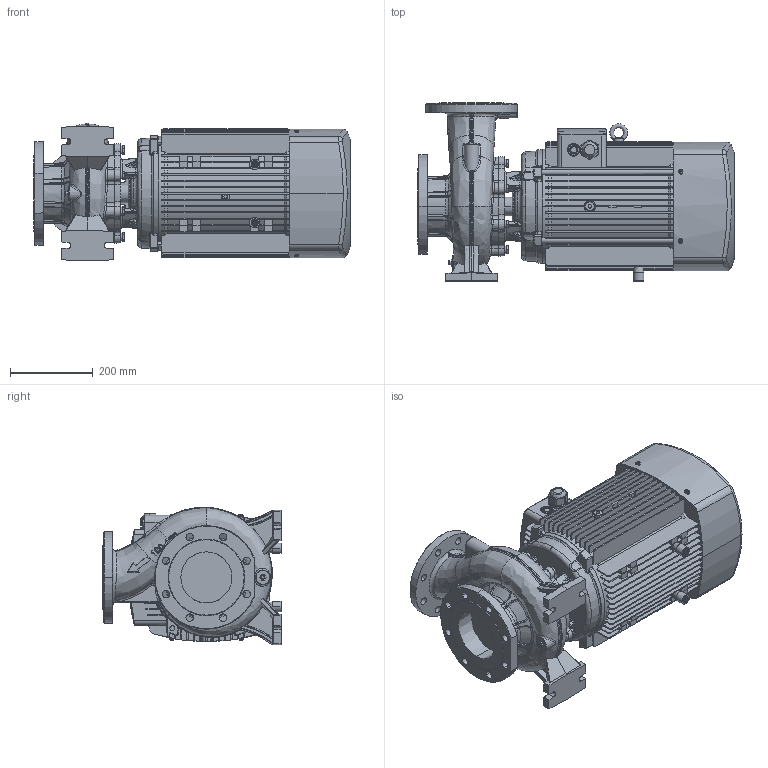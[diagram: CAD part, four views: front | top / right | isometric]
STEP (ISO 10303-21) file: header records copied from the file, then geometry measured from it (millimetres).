
FILE_DESCRIPTION (( 'STEP AP203' ), '1' );
FILE_NAME ('TST100-160-22 安装尺寸图.STEP', '2026-04-29T00:35:32', ( '微软用户' ), ( '微软中国' ), 'SwSTEP 2.0', 'SolidWorks 2020', '' );
FILE_SCHEMA (( 'CONFIG_CONTROL_DESIGN' ));
Products named in the file (1): TST100-160-22 假蚾喜渡芞
Bounding box: 763.5 x 430.58 x 331.58 mm (x, y, z)
Volume: 47898763.6 mm3; surface area: 2223548.1 mm2
Topology: 1 solids, 36 shells, 5416 faces, 13500 edges, 8519 vertices
Faces by surface type: plane 2785, bspline 1096, cylinder 813, cone 400, torus 294, sphere 28
Entity records: 229796 total; most frequent: CARTESIAN_POINT 108660, ORIENTED_EDGE 26912, DIRECTION 22346, EDGE_CURVE 13456, VERTEX_POINT 8519, AXIS2_PLACEMENT_3D 7583, VECTOR 7180, LINE 7180
